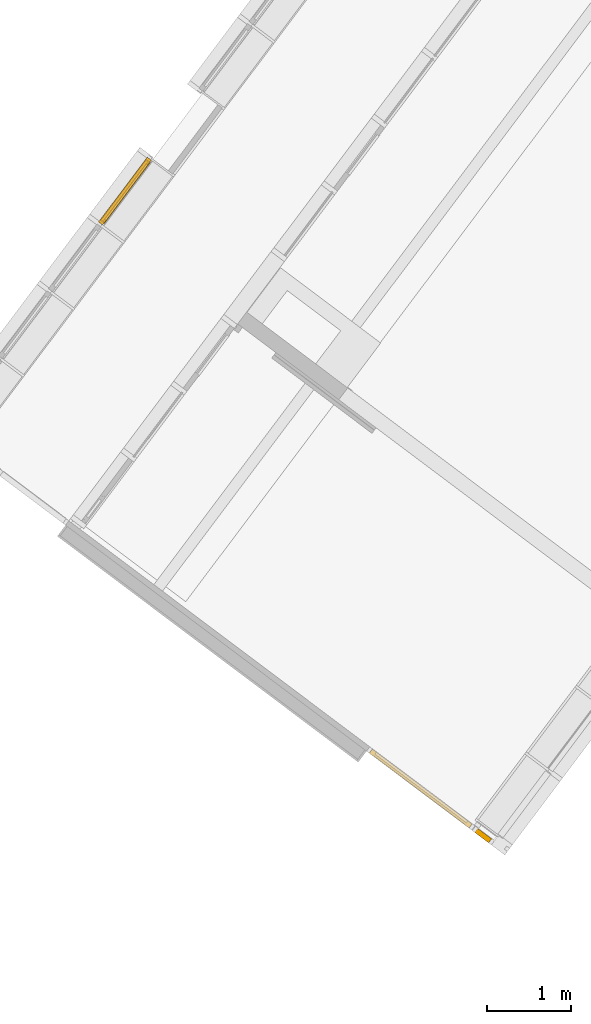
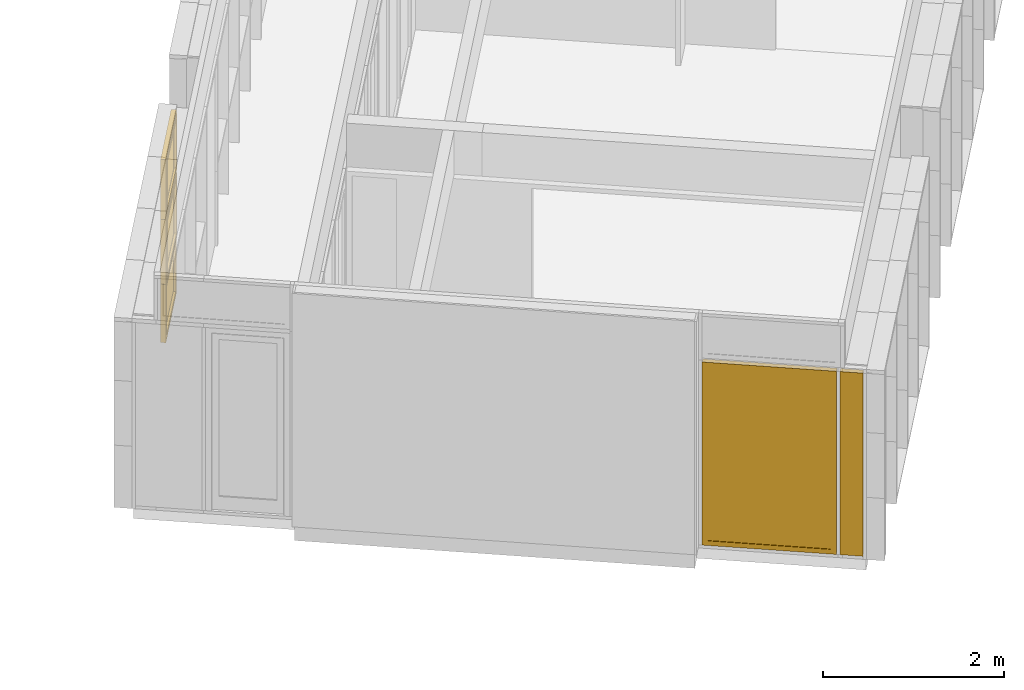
# One storey, part 142 of 243: 4 windows, 1 door, 2 elements without a shape of their own.
"""IFC2X3 building model written with IfcOpenShell, lengths in metres."""

from ifc_helpers import new_model, entity, si_unit, converted_unit, derived_unit, direction, frame, origin, origin_2d_with_axis, place, context, subcontext, project, spatial, rectangle, extrude, faceted_brep, source, transform, mapped, material, material_list, type_object, type_shapes, element, aggregate, save


model = new_model("IFC2X3")

# Units and contexts
model_context = context("Model", 3, precision=1e-05, world=origin(), true_north=direction((6.123031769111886e-17, 1.0)))
body_context = subcontext(model_context, "Body", "Model", "MODEL_VIEW")
ifc_project = project(units=[si_unit("LENGTHUNIT", "METRE"), si_unit("AREAUNIT", "SQUARE_METRE"), si_unit("VOLUMEUNIT", "CUBIC_METRE"), converted_unit("PLANEANGLEUNIT", "DEGREE", entity("IfcRatioMeasure", 0.017453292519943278), si_unit("PLANEANGLEUNIT", "RADIAN"), dimensions=[0, 0, 0, 0, 0, 0, 0]), si_unit("MASSUNIT", "GRAM", prefix="KILO"), derived_unit("MASSDENSITYUNIT", [(si_unit("MASSUNIT", "GRAM", prefix="KILO"), 1), (si_unit("LENGTHUNIT", "METRE"), -3)]), derived_unit("IONCONCENTRATIONUNIT", [(si_unit("MASSUNIT", "GRAM", prefix="KILO"), 1), (si_unit("LENGTHUNIT", "METRE"), -3)]), derived_unit("MOMENTOFINERTIAUNIT", [(si_unit("LENGTHUNIT", "METRE"), 4)]), si_unit("TIMEUNIT", "SECOND"), si_unit("FREQUENCYUNIT", "HERTZ"), si_unit("THERMODYNAMICTEMPERATUREUNIT", "DEGREE_CELSIUS"), derived_unit("THERMALTRANSMITTANCEUNIT", [(si_unit("MASSUNIT", "GRAM", prefix="KILO"), 1), (si_unit("THERMODYNAMICTEMPERATUREUNIT", "KELVIN"), -1), (si_unit("TIMEUNIT", "SECOND"), -3)]), derived_unit("THERMALCONDUCTANCEUNIT", [(si_unit("MASSUNIT", "GRAM", prefix="KILO"), 1), (si_unit("THERMODYNAMICTEMPERATUREUNIT", "KELVIN"), -1), (si_unit("TIMEUNIT", "SECOND"), -3), (si_unit("LENGTHUNIT", "METRE"), 1)]), derived_unit("VOLUMETRICFLOWRATEUNIT", [(si_unit("LENGTHUNIT", "METRE"), 3), (si_unit("TIMEUNIT", "SECOND"), -1)]), derived_unit("MASSFLOWRATEUNIT", [(si_unit("MASSUNIT", "GRAM", prefix="KILO"), 1), (si_unit("TIMEUNIT", "SECOND"), -1)]), derived_unit("ROTATIONALFREQUENCYUNIT", [(si_unit("TIMEUNIT", "SECOND"), -1)]), si_unit("ELECTRICCURRENTUNIT", "AMPERE"), si_unit("ELECTRICVOLTAGEUNIT", "VOLT"), si_unit("POWERUNIT", "WATT"), si_unit("FORCEUNIT", "NEWTON", prefix="KILO"), si_unit("ILLUMINANCEUNIT", "LUX"), si_unit("LUMINOUSFLUXUNIT", "LUMEN"), si_unit("LUMINOUSINTENSITYUNIT", "CANDELA"), derived_unit("USERDEFINED", [(si_unit("MASSUNIT", "GRAM", prefix="KILO"), -1), (si_unit("LENGTHUNIT", "METRE"), -2), (si_unit("TIMEUNIT", "SECOND"), 3), (si_unit("LUMINOUSFLUXUNIT", "LUMEN"), 1)]), derived_unit("USERDEFINED", [(si_unit("MASSUNIT", "GRAM", prefix="KILO"), 1), (si_unit("TIMEUNIT", "SECOND"), -3), (si_unit("LENGTHUNIT", "METRE"), 3), (si_unit("ELECTRICCURRENTUNIT", "AMPERE"), -2)]), derived_unit("SOUNDPOWERUNIT", [(si_unit("MASSUNIT", "GRAM", prefix="KILO"), 1), (si_unit("TIMEUNIT", "SECOND"), -3), (si_unit("LENGTHUNIT", "METRE"), 2)]), derived_unit("SOUNDPRESSUREUNIT", [(si_unit("MASSUNIT", "GRAM", prefix="KILO"), 1), (si_unit("LENGTHUNIT", "METRE"), -1), (si_unit("TIMEUNIT", "SECOND"), -2)]), derived_unit("LINEARVELOCITYUNIT", [(si_unit("LENGTHUNIT", "METRE"), 1), (si_unit("TIMEUNIT", "SECOND"), -1)]), si_unit("PRESSUREUNIT", "PASCAL"), derived_unit("USERDEFINED", [(si_unit("MASSUNIT", "GRAM", prefix="KILO"), 1), (si_unit("LENGTHUNIT", "METRE"), -2), (si_unit("TIMEUNIT", "SECOND"), -2)]), derived_unit("LINEARFORCEUNIT", [(si_unit("MASSUNIT", "GRAM", prefix="KILO"), 1), (si_unit("TIMEUNIT", "SECOND"), -2)]), derived_unit("PLANARFORCEUNIT", [(si_unit("MASSUNIT", "GRAM", prefix="KILO"), 1), (si_unit("LENGTHUNIT", "METRE"), -1), (si_unit("TIMEUNIT", "SECOND"), -2)]), derived_unit("SPECIFICHEATCAPACITYUNIT", [(si_unit("THERMODYNAMICTEMPERATUREUNIT", "KELVIN"), -1), (si_unit("LENGTHUNIT", "METRE"), 2), (si_unit("TIMEUNIT", "SECOND"), -2)]), derived_unit("HEATINGVALUEUNIT", [(si_unit("LENGTHUNIT", "METRE"), 2), (si_unit("TIMEUNIT", "SECOND"), -2)]), derived_unit("VAPORPERMEABILITYUNIT", [(si_unit("LENGTHUNIT", "METRE"), -1), (si_unit("TIMEUNIT", "SECOND"), 1)]), derived_unit("DYNAMICVISCOSITYUNIT", [(si_unit("MASSUNIT", "GRAM", prefix="KILO"), 1), (si_unit("TIMEUNIT", "SECOND"), -1), (si_unit("LENGTHUNIT", "METRE"), -1)]), derived_unit("THERMALEXPANSIONCOEFFICIENTUNIT", [(si_unit("THERMODYNAMICTEMPERATUREUNIT", "KELVIN"), -1)]), derived_unit("MODULUSOFELASTICITYUNIT", [(si_unit("MASSUNIT", "GRAM", prefix="KILO"), 1), (si_unit("LENGTHUNIT", "METRE"), -1), (si_unit("TIMEUNIT", "SECOND"), -2)]), derived_unit("ISOTHERMALMOISTURECAPACITYUNIT", [(si_unit("LENGTHUNIT", "METRE"), 3), (si_unit("MASSUNIT", "GRAM", prefix="KILO"), -1)]), derived_unit("MOISTUREDIFFUSIVITYUNIT", [(si_unit("TIMEUNIT", "SECOND"), -1), (si_unit("LENGTHUNIT", "METRE"), 2)])], contexts=[model_context])

# Site, building, storey
site_placement = place(None, frame((0.0, 0.0, 235.0), z_axis=(0.0, 0.0, 1.0), x_axis=(-0.7996477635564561, 0.6004693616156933, 0.0)))
site = spatial("IfcSite", under=ifc_project, at=site_placement, Name="Default", CompositionType="ELEMENT")
building_placement = place(site_placement, origin())
building = spatial("IfcBuilding", under=site, at=building_placement, CompositionType="ELEMENT")
storey_placement = place(building_placement, origin())
storey = spatial("IfcBuildingStorey", under=building, at=storey_placement, Name="P0- Escola", CompositionType="ELEMENT", Elevation=0.0)

# Curtain wall, windows
curtain_wall_type_1 = type_object("IfcCurtainWallType", Name="Muro cortina:MC- EXT- MC5", PredefinedType="NOTDEFINED")
curtain_wall_1_placement = place(storey_placement, origin())
curtain_wall_1 = element("IfcCurtainWall", 1, at=curtain_wall_1_placement, inside=storey, type_object=curtain_wall_type_1, Name="Muro cortina:MC- EXT- MC5", ObjectType="Muro cortina:MC- EXT- MC5")
ifc_material_1 = material(Name="_Vidre")
ifc_material_2 = material(Name="_Alumini- T1- Perfil")
ifc_material_list_1 = material_list([ifc_material_1, ifc_material_2])
window_style_1 = type_object("IfcWindowStyle", Name="MC- Alu- Conjunt vidre fix- 62x60 cm:MC- Alu- Conjunt vidre fix- 62x60 cm", ConstructionType="NOTDEFINED", OperationType="NOTDEFINED", ParameterTakesPrecedence=False, Sizeable=False, material=ifc_material_list_1)
shared_shape_1 = source(origin(), body_context, "Body", "Brep", [
    faceted_brep([(-0.43619328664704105, -0.007600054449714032, 0.048806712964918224), (0.43619328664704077, -0.007600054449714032, 0.048806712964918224), (0.43619328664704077, -0.03160022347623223, 0.048806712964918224), (-0.43619328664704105, -0.03160022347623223, 0.048806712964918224), (-0.43619328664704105, -0.007600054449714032, 0.7387000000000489), (0.43619328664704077, -0.007600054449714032, 0.7387000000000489), (0.43619328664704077, -0.03160022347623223, 0.7387000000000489), (-0.43619328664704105, -0.03160022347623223, 0.7387000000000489)], [[[0, 1, 2, 3]], [[4, 5, 1, 0]], [[5, 6, 2, 1]], [[6, 7, 3, 2]], [[7, 4, 0, 3]], [[4, 7, 6, 5]]]),
    faceted_brep([(-0.4849999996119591, -0.05999999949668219, 0.7877000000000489), (-0.4849999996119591, 0.0, 0.7877000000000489), (-0.4849999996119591, 0.0, 0.0), (-0.4849999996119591, -0.05999999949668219, 0.0), (-0.422193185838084, 0.0, 0.7248931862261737), (-0.4221931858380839, 0.0, 0.06280681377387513), (0.42219318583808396, 0.0, 0.06280681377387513), (0.42219318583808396, 0.0, 0.7248931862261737), (0.4849999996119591, 0.0, 0.7877000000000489), (0.4849999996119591, 0.0, 0.0), (0.4849999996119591, -0.05999999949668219, 0.0), (0.4849999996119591, -0.05999999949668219, 0.7877000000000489), (0.4221960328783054, -0.05999999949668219, 0.7248960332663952), (0.4221960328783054, -0.05999999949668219, 0.0628039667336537), (-0.4221960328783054, -0.05999999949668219, 0.0628039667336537), (-0.4221960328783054, -0.05999999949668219, 0.7248960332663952), (-0.4221960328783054, -0.03160022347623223, 0.7248960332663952), (-0.4221960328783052, -0.03160022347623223, 0.06280396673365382), (0.4221960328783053, -0.03160022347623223, 0.06280396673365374), (0.42219603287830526, -0.03160022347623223, 0.7248960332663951), (0.43619328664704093, -0.03160022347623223, 0.7388932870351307), (0.43619328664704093, -0.03160022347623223, 0.048806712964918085), (-0.43619328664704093, -0.03160022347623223, 0.04880671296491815), (-0.43619328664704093, -0.03160022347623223, 0.7388932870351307), (-0.43619328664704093, -0.007600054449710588, 0.7388932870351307), (-0.43619328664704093, -0.007600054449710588, 0.04880671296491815), (0.43619328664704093, -0.007600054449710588, 0.048806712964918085), (0.43619328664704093, -0.007600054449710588, 0.7388932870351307), (0.42219318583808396, -0.007600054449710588, 0.7248931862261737), (0.42219318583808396, -0.007600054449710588, 0.06280681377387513), (-0.42219318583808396, -0.007600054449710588, 0.06280681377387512), (-0.42219318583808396, -0.007600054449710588, 0.7248931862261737)], [[[0, 1, 2, 3]], [[4, 5, 6, 7], [8, 9, 2, 1]], [[3, 2, 9, 10]], [[0, 3, 10, 11], [12, 13, 14, 15]], [[16, 15, 14, 17]], [[17, 14, 13, 18]], [[16, 17, 18, 19], [20, 21, 22, 23]], [[24, 23, 22, 25]], [[25, 22, 21, 26]], [[24, 25, 26, 27], [28, 29, 30, 31]], [[4, 31, 30, 5]], [[5, 30, 29, 6]], [[10, 9, 8, 11]], [[18, 13, 12, 19]], [[26, 21, 20, 27]], [[6, 29, 28, 7]], [[11, 8, 1, 0]], [[19, 12, 15, 16]], [[27, 20, 23, 24]], [[7, 28, 31, 4]]], outer=[[True], [False, True], [True], [True, False], [True], [True], [False, True], [True], [True], [True, False], [True], [True], [True], [True], [True], [True], [True], [True], [True], [True]]),
])
type_shapes(window_style_1, [shared_shape_1])
window_1_placement = place(curtain_wall_1_placement, frame((49.345147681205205, -23.91519175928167, 0.03229999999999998), z_axis=(0.0, 0.0, 1.0), x_axis=(0.0, -1.0, 0.0)))
window_1 = element("IfcWindow", 2, at=window_1_placement, type_object=window_style_1, material=ifc_material_list_1, Name="MC- Alu- Conjunt vidre fix- 62x60 cm:MC- Alu- Conjunt vidre fix- 62x60 cm", ObjectType="MC- Alu- Conjunt vidre fix- 62x60 cm:MC- Alu- Conjunt vidre fix- 62x60 cm", OverallHeight=0.7877000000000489, OverallWidth=0.9699999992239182, context=body_context, shape_type="MappedRepresentation", body=[
    mapped(shared_shape_1, transform((0.0, 0.0, 0.0), scale=1.0)),
])
window_style_2 = type_object("IfcWindowStyle", Name="MC- Alu- Conjunt finestra basculant- 68x68 cm:MC- Alu- Conjunt finestra basculant- 68x68 cm", ConstructionType="NOTDEFINED", OperationType="NOTDEFINED", ParameterTakesPrecedence=False, Sizeable=False, material=ifc_material_list_1)
shared_shape_2 = source(origin(), body_context, "Body", "Brep", [
    faceted_brep([(-0.43291170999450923, -0.03559830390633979, 0.051999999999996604), (-0.43291170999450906, -0.011598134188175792, 0.051999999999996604), (0.43291170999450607, -0.011598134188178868, 0.051999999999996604), (0.43291170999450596, -0.03559830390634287, 0.051999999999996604), (-0.43291170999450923, -0.03559830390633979, 0.8228027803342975), (-0.4329117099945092, -0.011598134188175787, 0.8228027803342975), (0.43291170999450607, -0.011598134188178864, 0.8228027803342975), (0.43291170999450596, -0.03559830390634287, 0.8228027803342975)], [[[0, 1, 2, 3]], [[4, 5, 1, 0]], [[5, 6, 2, 1]], [[6, 7, 3, 2]], [[7, 4, 0, 3]], [[4, 7, 6, 5]]]),
    faceted_brep([(0.4172108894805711, -0.009998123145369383, 0.8071019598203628), (0.4172108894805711, -0.007998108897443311, 0.8071019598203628), (0.4172108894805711, -0.007998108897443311, 0.06789804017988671), (0.4172108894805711, -0.009998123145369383, 0.06789804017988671), (0.44610892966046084, -0.007998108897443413, 0.8360000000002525), (0.44610892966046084, -0.007998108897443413, 0.03899999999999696), (-0.44610892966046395, -0.007998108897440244, 0.03899999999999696), (-0.44610892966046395, -0.007998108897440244, 0.8360000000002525), (-0.4172108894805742, -0.007998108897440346, 0.8071019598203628), (-0.4172108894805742, -0.007998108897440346, 0.06789804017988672), (-0.4172108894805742, -0.009998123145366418, 0.06789804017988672), (-0.4172108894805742, -0.009998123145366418, 0.8071019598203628), (-0.4329117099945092, -0.00999812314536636, 0.8228027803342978), (-0.4329117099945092, -0.009998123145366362, 0.05219721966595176), (0.43291170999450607, -0.009998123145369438, 0.052197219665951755), (0.43291170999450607, -0.009998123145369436, 0.8228027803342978), (0.4329117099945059, -0.04079986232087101, 0.8228027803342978), (0.4329117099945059, -0.04079986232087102, 0.052197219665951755), (-0.4329117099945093, -0.04079986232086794, 0.05219721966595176), (-0.4329117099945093, -0.04079986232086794, 0.8228027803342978), (-0.41721088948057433, -0.040799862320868, 0.8071019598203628), (-0.41721088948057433, -0.040799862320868, 0.06789804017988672), (0.41721088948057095, -0.04079986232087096, 0.06789804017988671), (0.41721088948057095, -0.04079986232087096, 0.8071019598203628), (0.41721088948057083, -0.06800005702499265, 0.8071019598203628), (0.4172108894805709, -0.06800005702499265, 0.06789804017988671), (-0.4172108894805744, -0.0680000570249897, 0.06789804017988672), (-0.4172108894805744, -0.0680000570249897, 0.8071019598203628), (-0.4636128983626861, -0.06800005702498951, 0.8535039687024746), (-0.4636128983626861, -0.06800005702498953, 0.021496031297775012), (0.4636128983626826, -0.06800005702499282, 0.021496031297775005), (0.4636128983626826, -0.06800005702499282, 0.8535039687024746), (0.4636128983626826, -0.0645000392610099, 0.8535039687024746), (0.4636128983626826, -0.0645000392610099, 0.021496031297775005), (-0.4636128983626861, -0.06450003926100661, 0.021496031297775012), (-0.4636128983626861, -0.06450003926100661, 0.8535039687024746), (-0.44610892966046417, -0.06450003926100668, 0.8360000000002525), (-0.44610892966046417, -0.06450003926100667, 0.03899999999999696), (0.4461089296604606, -0.06450003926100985, 0.038999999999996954), (0.4461089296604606, -0.06450003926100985, 0.8360000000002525)], [[[0, 1, 2, 3]], [[4, 5, 6, 7], [8, 9, 2, 1]], [[3, 2, 9, 10]], [[0, 3, 10, 11], [12, 13, 14, 15]], [[16, 15, 14, 17]], [[17, 14, 13, 18]], [[16, 17, 18, 19], [20, 21, 22, 23]], [[24, 23, 22, 25]], [[25, 22, 21, 26]], [[24, 25, 26, 27], [28, 29, 30, 31]], [[32, 31, 30, 33]], [[33, 30, 29, 34]], [[32, 33, 34, 35], [36, 37, 38, 39]], [[4, 39, 38, 5]], [[5, 38, 37, 6]], [[10, 9, 8, 11]], [[18, 13, 12, 19]], [[26, 21, 20, 27]], [[34, 29, 28, 35]], [[6, 37, 36, 7]], [[11, 8, 1, 0]], [[19, 12, 15, 16]], [[27, 20, 23, 24]], [[35, 28, 31, 32]], [[7, 36, 39, 4]]], outer=[[True], [True, False], [True], [False, True], [True], [True], [True, False], [True], [True], [False, True], [True], [True], [True, False], [True], [True], [True], [True], [True], [True], [True], [True], [True], [True], [True], [True]]),
    faceted_brep([(-0.42219318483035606, 0.0, 0.8121931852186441), (-0.42219318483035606, -0.0040000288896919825, 0.8121931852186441), (-0.422193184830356, -0.0040000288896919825, 0.06280681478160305), (-0.42219318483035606, 0.0, 0.06280681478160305), (-0.4575998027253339, -0.0040000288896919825, 0.847599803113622), (-0.4575998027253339, -0.0040000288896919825, 0.027400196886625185), (0.4575998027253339, -0.0040000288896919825, 0.027400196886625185), (0.4575998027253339, -0.0040000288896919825, 0.847599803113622), (0.422193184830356, -0.0040000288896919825, 0.812193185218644), (0.42219318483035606, -0.0040000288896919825, 0.06280681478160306), (0.42219318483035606, 0.0, 0.06280681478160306), (0.42219318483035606, 0.0, 0.8121931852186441), (0.4849999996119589, 0.0, 0.8750000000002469), (0.48499999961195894, 0.0, 0.0), (-0.4849999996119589, 0.0, 0.0), (-0.48499999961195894, 0.0, 0.8750000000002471), (-0.48499999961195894, -0.05999999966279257, 0.8750000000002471), (-0.48499999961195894, -0.05999999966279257, 0.0), (0.48499999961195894, -0.05999999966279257, 0.0), (0.48499999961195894, -0.05999999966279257, 0.8750000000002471), (0.45759980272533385, -0.05999999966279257, 0.8475998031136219), (0.4575998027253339, -0.05999999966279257, 0.027400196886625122), (-0.45759980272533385, -0.05999999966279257, 0.027400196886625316), (-0.4575998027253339, -0.05999999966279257, 0.847599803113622)], [[[0, 1, 2, 3]], [[4, 5, 6, 7], [8, 9, 2, 1]], [[3, 2, 9, 10]], [[0, 3, 10, 11], [12, 13, 14, 15]], [[16, 15, 14, 17]], [[17, 14, 13, 18]], [[16, 17, 18, 19], [20, 21, 22, 23]], [[4, 23, 22, 5]], [[5, 22, 21, 6]], [[10, 9, 8, 11]], [[18, 13, 12, 19]], [[6, 21, 20, 7]], [[11, 8, 1, 0]], [[19, 12, 15, 16]], [[7, 20, 23, 4]]], outer=[[True], [True, False], [True], [False, True], [True], [True], [True, False], [True], [True], [True], [True], [True], [True], [True], [True]]),
])
type_shapes(window_style_2, [shared_shape_2])
window_2_placement = place(curtain_wall_1_placement, frame((49.345147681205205, -23.91519175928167, 0.8200000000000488), z_axis=(0.0, 0.0, 1.0), x_axis=(0.0, -1.0, 0.0)))
window_2 = element("IfcWindow", 3, at=window_2_placement, type_object=window_style_2, material=ifc_material_list_1, Name="MC- Alu- Conjunt finestra basculant- 68x68 cm:MC- Alu- Conjunt finestra basculant- 68x68 cm", ObjectType="MC- Alu- Conjunt finestra basculant- 68x68 cm:MC- Alu- Conjunt finestra basculant- 68x68 cm", OverallHeight=0.8750000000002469, OverallWidth=0.9699999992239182, context=body_context, shape_type="MappedRepresentation", body=[
    mapped(shared_shape_2, transform((0.0, 0.0, 0.0), scale=1.0)),
])
window_style_3 = type_object("IfcWindowStyle", Name="MC- Alu- Conjunt finestra basculant- 68x68 cm:MC- Alu- Conjunt finestra basculant- 68x68 cm", ConstructionType="NOTDEFINED", OperationType="NOTDEFINED", ParameterTakesPrecedence=False, Sizeable=False, material=ifc_material_list_1)
shared_shape_3 = source(origin(), body_context, "Body", "Brep", [
    faceted_brep([(-0.43291170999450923, -0.03559830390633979, 0.051999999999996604), (-0.43291170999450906, -0.011598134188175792, 0.051999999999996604), (0.43291170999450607, -0.011598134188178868, 0.051999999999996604), (0.43291170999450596, -0.03559830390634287, 0.051999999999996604), (-0.43291170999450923, -0.03559830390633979, 0.7565527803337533), (-0.4329117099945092, -0.011598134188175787, 0.7565527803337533), (0.43291170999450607, -0.011598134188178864, 0.7565527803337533), (0.43291170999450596, -0.03559830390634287, 0.7565527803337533)], [[[0, 1, 2, 3]], [[4, 5, 1, 0]], [[5, 6, 2, 1]], [[6, 7, 3, 2]], [[7, 4, 0, 3]], [[4, 7, 6, 5]]]),
    faceted_brep([(0.4172108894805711, -0.009998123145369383, 0.7408519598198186), (0.4172108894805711, -0.007998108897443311, 0.7408519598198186), (0.4172108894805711, -0.007998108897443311, 0.06789804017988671), (0.4172108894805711, -0.009998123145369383, 0.06789804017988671), (0.44610892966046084, -0.007998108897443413, 0.7697499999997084), (0.44610892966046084, -0.007998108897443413, 0.03899999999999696), (-0.44610892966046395, -0.007998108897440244, 0.03899999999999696), (-0.44610892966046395, -0.007998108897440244, 0.7697499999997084), (-0.4172108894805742, -0.007998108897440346, 0.7408519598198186), (-0.4172108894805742, -0.007998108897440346, 0.06789804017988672), (-0.4172108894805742, -0.009998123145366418, 0.06789804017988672), (-0.4172108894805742, -0.009998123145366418, 0.7408519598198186), (-0.4329117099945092, -0.00999812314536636, 0.7565527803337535), (-0.4329117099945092, -0.009998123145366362, 0.05219721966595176), (0.43291170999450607, -0.009998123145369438, 0.052197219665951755), (0.43291170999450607, -0.009998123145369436, 0.7565527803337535), (0.4329117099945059, -0.04079986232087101, 0.7565527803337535), (0.4329117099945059, -0.04079986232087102, 0.052197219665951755), (-0.4329117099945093, -0.04079986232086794, 0.05219721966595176), (-0.4329117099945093, -0.04079986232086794, 0.7565527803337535), (-0.41721088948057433, -0.040799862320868, 0.7408519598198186), (-0.41721088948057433, -0.040799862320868, 0.06789804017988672), (0.41721088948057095, -0.04079986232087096, 0.06789804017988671), (0.41721088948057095, -0.04079986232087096, 0.7408519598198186), (0.41721088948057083, -0.06800005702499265, 0.7408519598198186), (0.4172108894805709, -0.06800005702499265, 0.06789804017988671), (-0.4172108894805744, -0.0680000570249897, 0.06789804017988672), (-0.4172108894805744, -0.0680000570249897, 0.7408519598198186), (-0.4636128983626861, -0.06800005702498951, 0.7872539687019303), (-0.4636128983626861, -0.06800005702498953, 0.021496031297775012), (0.4636128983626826, -0.06800005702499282, 0.021496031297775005), (0.4636128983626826, -0.06800005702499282, 0.7872539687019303), (0.4636128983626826, -0.0645000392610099, 0.7872539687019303), (0.4636128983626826, -0.0645000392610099, 0.021496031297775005), (-0.4636128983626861, -0.06450003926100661, 0.021496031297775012), (-0.4636128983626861, -0.06450003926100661, 0.7872539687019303), (-0.44610892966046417, -0.06450003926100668, 0.7697499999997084), (-0.44610892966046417, -0.06450003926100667, 0.03899999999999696), (0.4461089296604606, -0.06450003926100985, 0.038999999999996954), (0.4461089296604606, -0.06450003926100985, 0.7697499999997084)], [[[0, 1, 2, 3]], [[4, 5, 6, 7], [8, 9, 2, 1]], [[3, 2, 9, 10]], [[0, 3, 10, 11], [12, 13, 14, 15]], [[16, 15, 14, 17]], [[17, 14, 13, 18]], [[16, 17, 18, 19], [20, 21, 22, 23]], [[24, 23, 22, 25]], [[25, 22, 21, 26]], [[24, 25, 26, 27], [28, 29, 30, 31]], [[32, 31, 30, 33]], [[33, 30, 29, 34]], [[32, 33, 34, 35], [36, 37, 38, 39]], [[4, 39, 38, 5]], [[5, 38, 37, 6]], [[10, 9, 8, 11]], [[18, 13, 12, 19]], [[26, 21, 20, 27]], [[34, 29, 28, 35]], [[6, 37, 36, 7]], [[11, 8, 1, 0]], [[19, 12, 15, 16]], [[27, 20, 23, 24]], [[35, 28, 31, 32]], [[7, 36, 39, 4]]], outer=[[True], [True, False], [True], [False, True], [True], [True], [True, False], [True], [True], [False, True], [True], [True], [True, False], [True], [True], [True], [True], [True], [True], [True], [True], [True], [True], [True], [True]]),
    faceted_brep([(-0.42219318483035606, 0.0, 0.7459431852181), (-0.42219318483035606, -0.0040000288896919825, 0.7459431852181), (-0.422193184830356, -0.0040000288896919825, 0.06280681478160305), (-0.42219318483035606, 0.0, 0.06280681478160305), (-0.4575998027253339, -0.0040000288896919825, 0.7813498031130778), (-0.4575998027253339, -0.0040000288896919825, 0.027400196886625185), (0.4575998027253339, -0.0040000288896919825, 0.027400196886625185), (0.4575998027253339, -0.0040000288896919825, 0.7813498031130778), (0.422193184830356, -0.0040000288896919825, 0.7459431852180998), (0.42219318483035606, -0.0040000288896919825, 0.06280681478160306), (0.42219318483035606, 0.0, 0.06280681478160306), (0.42219318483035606, 0.0, 0.7459431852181), (0.48499999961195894, 0.0, 0.8087499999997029), (0.48499999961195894, 0.0, 0.0), (-0.48499999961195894, 0.0, 0.0), (-0.48499999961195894, 0.0, 0.8087499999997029), (-0.48499999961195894, -0.05999999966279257, 0.8087499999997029), (-0.48499999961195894, -0.05999999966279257, 0.0), (0.48499999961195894, -0.05999999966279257, 0.0), (0.48499999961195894, -0.05999999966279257, 0.8087499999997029), (0.4575998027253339, -0.05999999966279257, 0.7813498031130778), (0.4575998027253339, -0.05999999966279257, 0.027400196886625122), (-0.4575998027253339, -0.05999999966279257, 0.02740019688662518), (-0.4575998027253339, -0.05999999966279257, 0.7813498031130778)], [[[0, 1, 2, 3]], [[4, 5, 6, 7], [8, 9, 2, 1]], [[3, 2, 9, 10]], [[0, 3, 10, 11], [12, 13, 14, 15]], [[16, 15, 14, 17]], [[17, 14, 13, 18]], [[16, 17, 18, 19], [20, 21, 22, 23]], [[4, 23, 22, 5]], [[5, 22, 21, 6]], [[10, 9, 8, 11]], [[18, 13, 12, 19]], [[6, 21, 20, 7]], [[11, 8, 1, 0]], [[19, 12, 15, 16]], [[7, 20, 23, 4]]], outer=[[True], [True, False], [True], [False, True], [True], [True], [True, False], [True], [True], [True], [True], [True], [True], [True], [True]]),
])
type_shapes(window_style_3, [shared_shape_3])
window_3_placement = place(curtain_wall_1_placement, frame((49.345147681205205, -23.91519175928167, 1.695000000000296), z_axis=(0.0, 0.0, 1.0), x_axis=(0.0, -1.0, 0.0)))
window_3 = element("IfcWindow", 4, at=window_3_placement, type_object=window_style_3, material=ifc_material_list_1, Name="MC- Alu- Conjunt finestra basculant- 68x68 cm:MC- Alu- Conjunt finestra basculant- 68x68 cm", ObjectType="MC- Alu- Conjunt finestra basculant- 68x68 cm:MC- Alu- Conjunt finestra basculant- 68x68 cm", OverallHeight=0.8087499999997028, OverallWidth=0.9699999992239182, context=body_context, shape_type="MappedRepresentation", body=[
    mapped(shared_shape_3, transform((0.0, 0.0, 0.0), scale=1.0)),
])
aggregate(curtain_wall_1, [window_1, window_2, window_3])

# Curtain wall, door, window
curtain_wall_type_2 = type_object("IfcCurtainWallType", Name="Muro cortina:MC- EXT- AL1- Fa porxo", PredefinedType="NOTDEFINED")
curtain_wall_2_placement = place(storey_placement, origin())
curtain_wall_2 = element("IfcCurtainWall", 5, at=curtain_wall_2_placement, inside=storey, type_object=curtain_wall_type_2, Name="Muro cortina:MC- EXT- AL1- Fa porxo", ObjectType="Muro cortina:MC- EXT- AL1- Fa porxo")
ifc_material_3 = material(Name="_Aillament")
ifc_material_list_2 = material_list([ifc_material_2, ifc_material_3])
door_style = type_object("IfcDoorStyle", Name="MC- Alu- panell especific xapa:MC- Alu- panell especific xapa", ConstructionType="NOTDEFINED", OperationType="NOTDEFINED", ParameterTakesPrecedence=False, Sizeable=False, material=ifc_material_list_2)
shared_shape_4 = source(origin(), body_context, "Body", "SweptSolid", [
    extrude(rectangle(XDim=0.005999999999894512, YDim=0.2529999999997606, at=origin_2d_with_axis()), frame((0.0, -0.057000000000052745, 0.0), z_axis=(0.0, 0.0, 1.0), x_axis=(0.0, -1.0, 0.0)), (0.0, 0.0, 1.0), 2.4712499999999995),
    extrude(rectangle(XDim=0.2529999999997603, YDim=0.048000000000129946, at=origin_2d_with_axis()), frame((0.0, -0.030000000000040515, 0.0)), (0.0, 0.0, 1.0), 2.4712499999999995),
    extrude(rectangle(XDim=0.005999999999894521, YDim=0.25299999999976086, at=origin_2d_with_axis()), frame((0.0, -0.003000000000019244, 0.0), z_axis=(0.0, 0.0, 1.0), x_axis=(0.0, -1.0, 0.0)), (0.0, 0.0, 1.0), 2.4712499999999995),
])
type_shapes(door_style, [shared_shape_4])
door_placement = place(curtain_wall_2_placement, frame((41.27264768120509, -20.28894175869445, 0.02099999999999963)))
door = element("IfcDoor", 6, at=door_placement, type_object=door_style, material=ifc_material_list_2, Name="MC- Alu- panell especific xapa:MC- Alu- panell especific xapa", ObjectType="MC- Alu- panell especific xapa:MC- Alu- panell especific xapa", OverallHeight=2.4712499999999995, OverallWidth=0.252999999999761, context=body_context, shape_type="MappedRepresentation", body=[
    mapped(shared_shape_4, transform((0.0, 0.0, 0.0), scale=1.0)),
])
window_style_4 = type_object("IfcWindowStyle", Name="MC- Alu- Conjunt vidre fix- 62x60 cm:MC- Alu- Conjunt vidre fix- 62x60 cm", ConstructionType="NOTDEFINED", OperationType="NOTDEFINED", ParameterTakesPrecedence=False, Sizeable=False, material=ifc_material_list_1)
shared_shape_5 = source(origin(), body_context, "Body", "Brep", [
    faceted_brep([(-0.698191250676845, -0.007600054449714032, 0.048806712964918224), (0.6981912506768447, -0.007600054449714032, 0.048806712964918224), (0.6981912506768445, -0.03160022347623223, 0.048806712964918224), (-0.6981912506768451, -0.03160022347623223, 0.048806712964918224), (-0.6981912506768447, -0.007600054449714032, 2.4222499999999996), (0.6981912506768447, -0.007600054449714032, 2.4222499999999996), (0.6981912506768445, -0.03160022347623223, 2.4222499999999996), (-0.6981912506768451, -0.03160022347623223, 2.4222499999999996)], [[[0, 1, 2, 3]], [[4, 5, 1, 0]], [[5, 6, 2, 1]], [[6, 7, 3, 2]], [[7, 4, 0, 3]], [[4, 7, 6, 5]]]),
    faceted_brep([(-0.746997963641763, -0.05999999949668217, 2.4712499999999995), (-0.746997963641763, 0.0, 2.4712499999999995), (-0.746997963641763, 0.0, 0.0), (-0.746997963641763, -0.05999999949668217, 0.0), (-0.6841911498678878, 0.0, 2.4084431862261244), (-0.6841911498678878, 0.0, 0.06280681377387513), (0.6841911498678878, 0.0, 0.06280681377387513), (0.6841911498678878, 0.0, 2.4084431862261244), (0.746997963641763, 0.0, 2.4712499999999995), (0.746997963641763, 0.0, 0.0), (0.746997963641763, -0.05999999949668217, 0.0), (0.746997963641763, -0.05999999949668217, 2.4712499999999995), (0.684193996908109, -0.05999999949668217, 2.4084460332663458), (0.6841939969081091, -0.05999999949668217, 0.06280396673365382), (-0.684193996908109, -0.05999999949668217, 0.06280396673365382), (-0.6841939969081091, -0.05999999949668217, 2.4084460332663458), (-0.6841939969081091, -0.03160022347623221, 2.4084460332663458), (-0.6841939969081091, -0.03160022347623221, 0.06280396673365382), (0.6841939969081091, -0.03160022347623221, 0.06280396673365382), (0.6841939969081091, -0.03160022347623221, 2.4084460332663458), (0.6981912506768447, -0.03160022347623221, 2.4224432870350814), (0.6981912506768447, -0.03160022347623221, 0.048806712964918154), (-0.6981912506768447, -0.03160022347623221, 0.04880671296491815), (-0.6981912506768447, -0.03160022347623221, 2.4224432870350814), (-0.6981912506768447, -0.007600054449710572, 2.4224432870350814), (-0.6981912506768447, -0.007600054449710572, 0.04880671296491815), (0.6981912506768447, -0.007600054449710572, 0.048806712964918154), (0.6981912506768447, -0.007600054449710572, 2.4224432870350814), (0.6841911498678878, -0.007600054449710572, 2.4084431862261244), (0.6841911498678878, -0.007600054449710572, 0.06280681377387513), (-0.6841911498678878, -0.007600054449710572, 0.06280681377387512), (-0.6841911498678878, -0.007600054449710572, 2.4084431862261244)], [[[0, 1, 2, 3]], [[4, 5, 6, 7], [8, 9, 2, 1]], [[3, 2, 9, 10]], [[0, 3, 10, 11], [12, 13, 14, 15]], [[16, 15, 14, 17]], [[17, 14, 13, 18]], [[16, 17, 18, 19], [20, 21, 22, 23]], [[24, 23, 22, 25]], [[25, 22, 21, 26]], [[24, 25, 26, 27], [28, 29, 30, 31]], [[4, 31, 30, 5]], [[5, 30, 29, 6]], [[10, 9, 8, 11]], [[18, 13, 12, 19]], [[26, 21, 20, 27]], [[6, 29, 28, 7]], [[11, 8, 1, 0]], [[19, 12, 15, 16]], [[27, 20, 23, 24]], [[7, 28, 31, 4]]], outer=[[True], [False, True], [True], [True, False], [True], [True], [False, True], [True], [True], [True, False], [True], [True], [True], [True], [True], [True], [True], [True], [True], [True]]),
])
type_shapes(window_style_4, [shared_shape_5])
window_4_placement = place(curtain_wall_2_placement, frame((42.18714564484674, -20.288941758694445, 0.02099999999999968)))
window_4 = element("IfcWindow", 7, at=window_4_placement, type_object=window_style_4, material=ifc_material_list_1, Name="MC- Alu- Conjunt vidre fix- 62x60 cm:MC- Alu- Conjunt vidre fix- 62x60 cm", ObjectType="MC- Alu- Conjunt vidre fix- 62x60 cm:MC- Alu- Conjunt vidre fix- 62x60 cm", OverallHeight=2.4712499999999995, OverallWidth=1.493995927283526, context=body_context, shape_type="MappedRepresentation", body=[
    mapped(shared_shape_5, transform((0.0, 0.0, 0.0), scale=1.0)),
])
aggregate(curtain_wall_2, [door, window_4])

save(model, "model.ifc")
